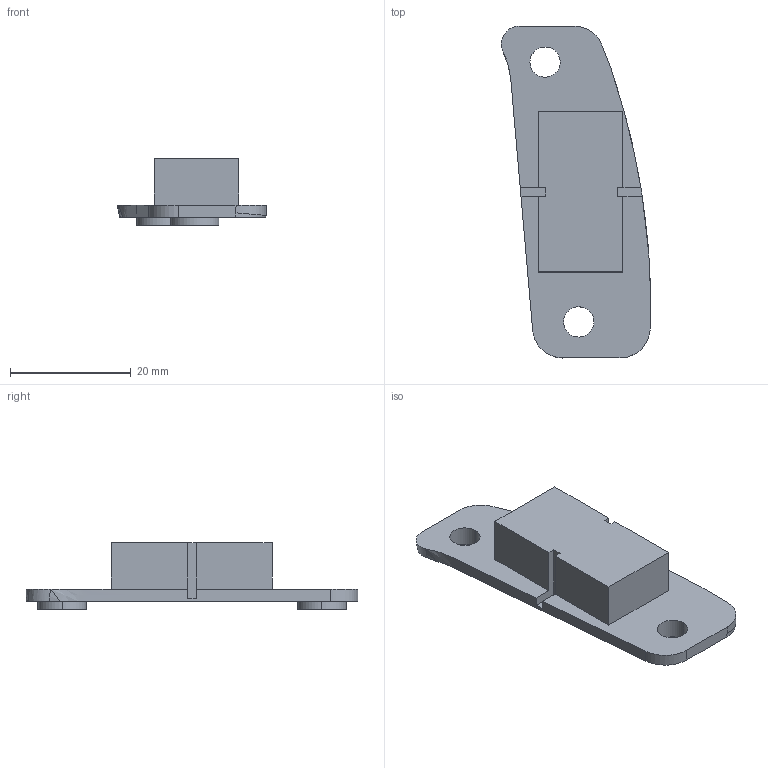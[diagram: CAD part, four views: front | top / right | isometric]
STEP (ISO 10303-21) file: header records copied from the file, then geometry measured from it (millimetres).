
FILE_DESCRIPTION(/* description */ (''),/* implementation_level */ '2;1');
FILE_NAME(/* name */ 'sensor holder R',/* time_stamp */ '2026-04-11T10:50:55+09:00',/* author */ (''),/* organization */ (''),/* preprocessor_version */ 'ST-DEVELOPER v16.5',/* originating_system */ '',/* authorisation */ '');
FILE_SCHEMA (('CONFIG_CONTROL_DESIGN'));
Length unit declared in the file: millimetre
Products named in the file (1): Document
Bounding box: 24.67 x 54.91 x 11.07 mm (x, y, z)
Volume: 3002.2 mm3; surface area: 3643.9 mm2
Topology: 1 solids, 1 shells, 45 faces, 119 edges, 79 vertices
Faces by surface type: plane 27, bspline 9, cylinder 9
Entity records: 2103 total; most frequent: CARTESIAN_POINT 1231, ORIENTED_EDGE 238, EDGE_CURVE 119, B_SPLINE_CURVE_WITH_KNOTS 85, VERTEX_POINT 79, EDGE_LOOP 52, ADVANCED_FACE 45, FACE_OUTER_BOUND 45
